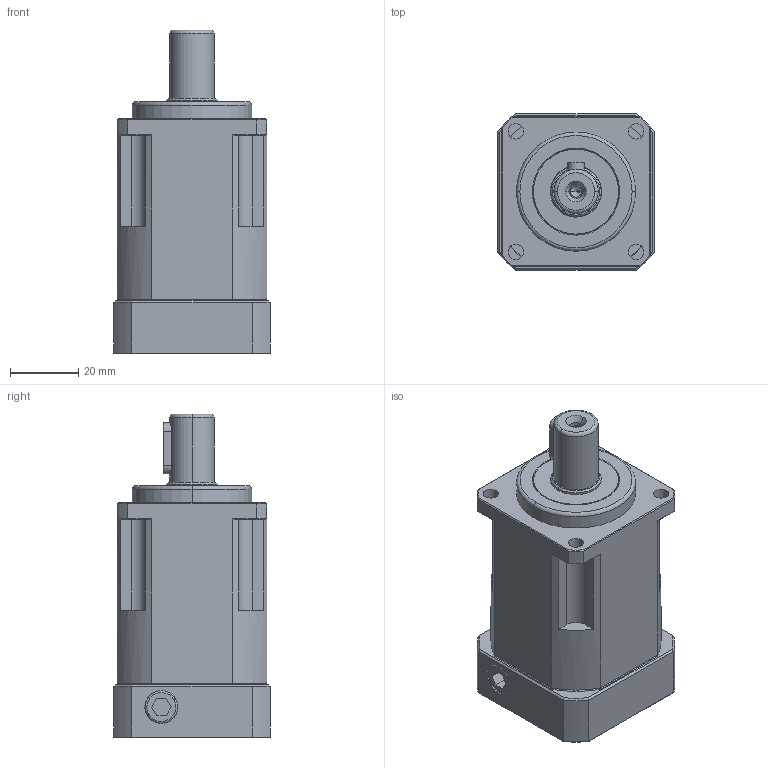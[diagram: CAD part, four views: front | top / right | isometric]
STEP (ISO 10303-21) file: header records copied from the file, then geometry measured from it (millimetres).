
FILE_DESCRIPTION (( 'STEP AP203' ), '1' );
FILE_NAME ('SB44-1-30M4.step', '2016-04-22T08:26:07', ( '' ), ( '' ), 'SwSTEP 2.0', 'SolidWorks 2015', '' );
FILE_SCHEMA (( 'CONFIG_CONTROL_DESIGN' ));
Length unit declared in the file: millimetre
Products named in the file (1): SB44-1-30M4
Bounding box: 46 x 46 x 95 mm (x, y, z)
Volume: 115329.6 mm3; surface area: 32312.9 mm2
Topology: 1 solids, 15 shells, 586 faces, 1387 edges, 848 vertices
Faces by surface type: plane 268, cylinder 171, cone 120, torus 18, bspline 9
Entity records: 17630 total; most frequent: CARTESIAN_POINT 4056, DIRECTION 2923, ORIENTED_EDGE 2702, EDGE_CURVE 1351, AXIS2_PLACEMENT_3D 1107, VERTEX_POINT 848, VECTOR 709, LINE 709
